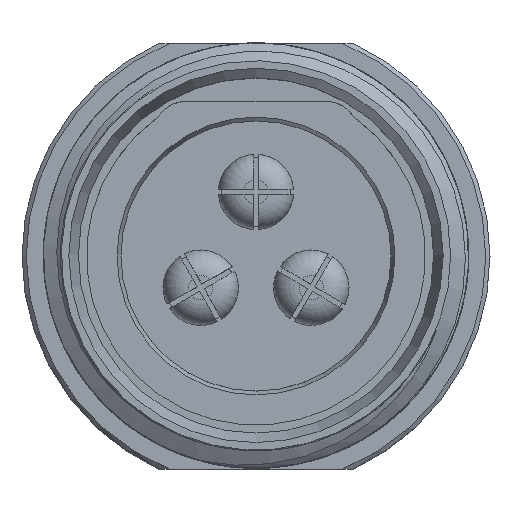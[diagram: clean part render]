
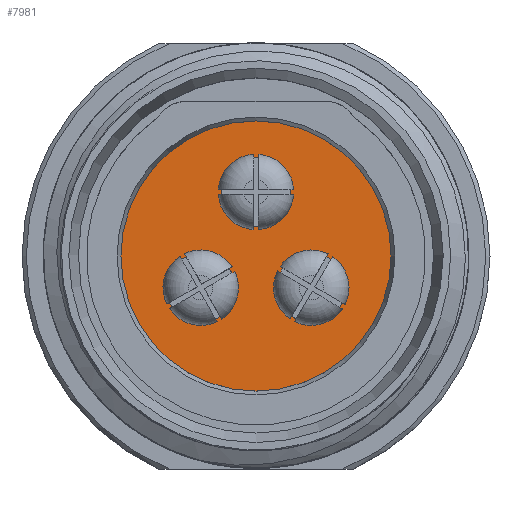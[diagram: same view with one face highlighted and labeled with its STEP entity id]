
A CAD part, top view. The second image highlights one B-rep face of the part: STEP entity #7981.
In plain terms, the highlighted planar face has unit normal (0, 0, 1).
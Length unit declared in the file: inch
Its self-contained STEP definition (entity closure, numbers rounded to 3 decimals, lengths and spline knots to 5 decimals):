
#104 = CARTESIAN_POINT ( 'NONE',  ( 0.10229, -0.05906, 0. ) ) ;
#173 = EDGE_LOOP ( 'NONE', ( #7001 ) ) ;
#175 = FACE_BOUND ( 'NONE', #9841, .T. ) ;
#471 = EDGE_LOOP ( 'NONE', ( #2855 ) ) ;
#720 = AXIS2_PLACEMENT_3D ( 'NONE', #3834, #1538, #4582 ) ;
#889 = FACE_BOUND ( 'NONE', #5969, .T. ) ;
#1040 = CARTESIAN_POINT ( 'NONE',  ( 0.17467, -0.04019, 0. ) ) ;
#1151 = CARTESIAN_POINT ( 'NONE',  ( 0.11842, -0.12096, 0. ) ) ;
#1538 = DIRECTION ( 'NONE',  ( 0., 0., -1. ) ) ;
#1549 = VERTEX_POINT ( 'NONE', #6194 ) ;
#1879 = CARTESIAN_POINT ( 'NONE',  ( -0.16397, -0.04208, 0. ) ) ;
#2384 = DIRECTION ( 'NONE',  ( -0.964, 0.265, 0. ) ) ;
#2428 = EDGE_CURVE ( 'NONE', #1549, #1549, #6477, .T. ) ;
#2492 = CARTESIAN_POINT ( 'NONE',  ( 0., 0.11811, 0. ) ) ;
#2838 = AXIS2_PLACEMENT_3D ( 'NONE', #2492, #6450, #5598 ) ;
#2855 = ORIENTED_EDGE ( 'NONE', *, *, #7304, .F. ) ;
#3017 = CIRCLE ( 'NONE', #3984, 0.06398 ) ;
#3120 = PLANE ( 'NONE',  #3636 ) ;
#3216 = FACE_BOUND ( 'NONE', #471, .T. ) ;
#3636 = AXIS2_PLACEMENT_3D ( 'NONE', #1040, #6180, #9253 ) ;
#3834 = CARTESIAN_POINT ( 'NONE',  ( 0., 0., 0. ) ) ;
#3853 = DIRECTION ( 'NONE',  ( 0.252, -0.968, 0. ) ) ;
#3984 = AXIS2_PLACEMENT_3D ( 'NONE', #104, #6302, #3853 ) ;
#3990 = DIRECTION ( 'NONE',  ( 0., 0., 1. ) ) ;
#4039 = VERTEX_POINT ( 'NONE', #1879 ) ;
#4416 = EDGE_CURVE ( 'NONE', #4931, #4931, #3017, .T. ) ;
#4582 = DIRECTION ( 'NONE',  ( 0., 1., 0. ) ) ;
#4685 = CARTESIAN_POINT ( 'NONE',  ( -0.10229, -0.05906, 0. ) ) ;
#4910 = CIRCLE ( 'NONE', #2838, 0.06398 ) ;
#4931 = VERTEX_POINT ( 'NONE', #1151 ) ;
#5360 = EDGE_CURVE ( 'NONE', #4039, #4039, #6835, .T. ) ;
#5598 = DIRECTION ( 'NONE',  ( 0.712, 0.702, 0. ) ) ;
#5969 = EDGE_LOOP ( 'NONE', ( #9472 ) ) ;
#6180 = DIRECTION ( 'NONE',  ( 0., 0., -1. ) ) ;
#6194 = CARTESIAN_POINT ( 'NONE',  ( 0., 0.25, 0. ) ) ;
#6273 = FACE_OUTER_BOUND ( 'NONE', #173, .T. ) ;
#6302 = DIRECTION ( 'NONE',  ( 0., 0., 1. ) ) ;
#6450 = DIRECTION ( 'NONE',  ( 0., 0., 1. ) ) ;
#6477 = CIRCLE ( 'NONE', #720, 0.25 ) ;
#6835 = CIRCLE ( 'NONE', #7794, 0.06398 ) ;
#7001 = ORIENTED_EDGE ( 'NONE', *, *, #2428, .F. ) ;
#7304 = EDGE_CURVE ( 'NONE', #8753, #8753, #4910, .T. ) ;
#7794 = AXIS2_PLACEMENT_3D ( 'NONE', #4685, #3990, #2384 ) ;
#7853 = CARTESIAN_POINT ( 'NONE',  ( 0.04555, 0.16304, 0. ) ) ;
#7981 = ADVANCED_FACE ( 'NONE', ( #889, #175, #3216, #6273 ), #3120, .F. ) ;
#8753 = VERTEX_POINT ( 'NONE', #7853 ) ;
#9253 = DIRECTION ( 'NONE',  ( -0.252, 0.968, 0. ) ) ;
#9472 = ORIENTED_EDGE ( 'NONE', *, *, #4416, .F. ) ;
#9841 = EDGE_LOOP ( 'NONE', ( #9845 ) ) ;
#9845 = ORIENTED_EDGE ( 'NONE', *, *, #5360, .F. ) ;
